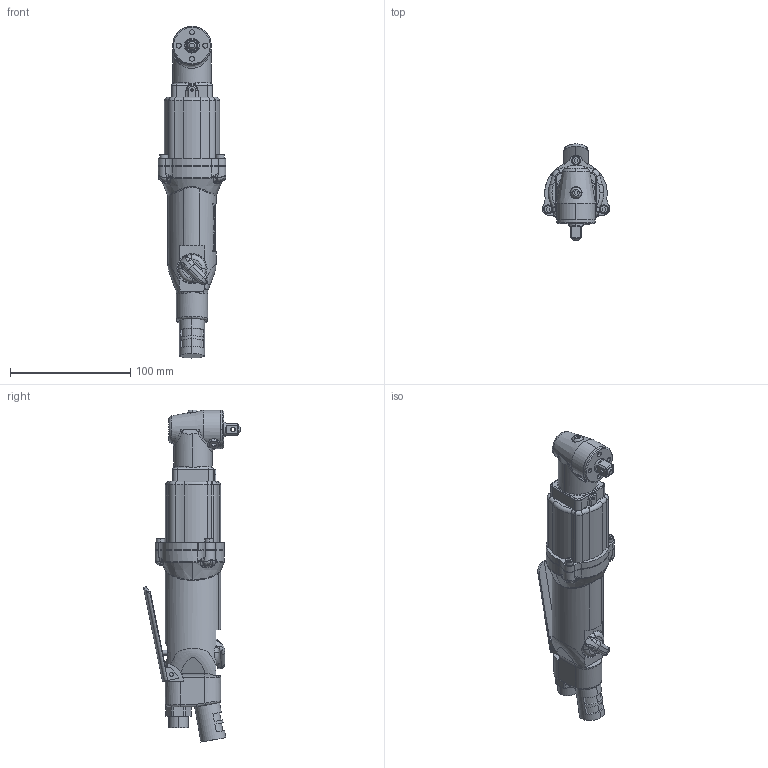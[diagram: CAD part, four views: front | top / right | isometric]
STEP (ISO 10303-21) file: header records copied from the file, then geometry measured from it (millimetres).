
FILE_DESCRIPTION (( 'STEP AP203' ), '1' );
FILE_NAME ('UX-612C.STEP', '2007-04-20T07:00:08', ( ' ' ), ( ' ' ), 'SwSTEP 2.0', 'SolidWorks 2003240', '' );
FILE_SCHEMA (( 'CONFIG_CONTROL_DESIGN' ));
Length unit declared in the file: millimetre
Products named in the file (9): 1770253_UX-612C_蹬怮椔; 1802122_UX-612C_蹬怮椔; UX-612C; 0084301_UX-612C_蹬怮椔; 1794883_UX-612C_蹬怮椔; 1794413_UX-612C_蹬怮椔; 1774393_UX-612C_蹬怮椔; PIN_UX-612C_蹬怮椔; 5001071_UX-612C_蹬怮椔
Assembly tree (8 placements, depth 2):
  UX-612C
    1802122_UX-612C_蹬怮椔
    0084301_UX-612C_蹬怮椔
    PIN_UX-612C_蹬怮椔
    1794883_UX-612C_蹬怮椔
    1794413_UX-612C_蹬怮椔
    1770253_UX-612C_蹬怮椔
    1774393_UX-612C_蹬怮椔
    5001071_UX-612C_蹬怮椔
Bounding box: 56.02 x 80.6 x 276.04 mm (x, y, z)
Volume: 365720.3 mm3; surface area: 59889.7 mm2
Topology: 10 solids, 10 shells, 914 faces, 2345 edges, 1483 vertices
Faces by surface type: plane 358, cylinder 285, bspline 188, torus 52, cone 27, sphere 4
Entity records: 88362 total; most frequent: CARTESIAN_POINT 66921, ORIENTED_EDGE 4626, DIRECTION 3778, EDGE_CURVE 2313, VERTEX_POINT 1483, AXIS2_PLACEMENT_3D 1430, EDGE_LOOP 984, VECTOR 918
